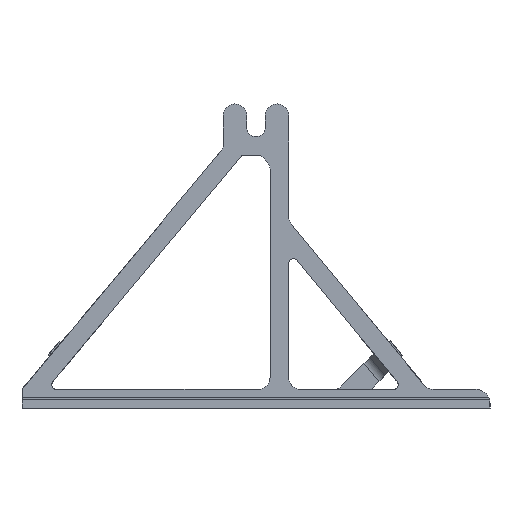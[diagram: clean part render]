
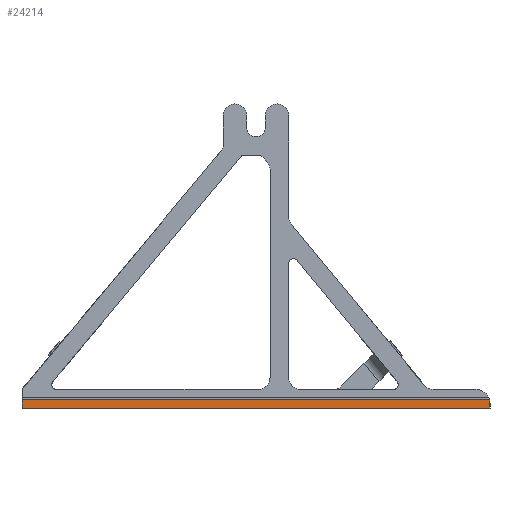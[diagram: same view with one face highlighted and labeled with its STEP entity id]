
A CAD part, left-side view. The second image highlights one B-rep face of the part: STEP entity #24214.
In plain terms, the highlighted planar face has unit normal (-1, 0, 0).
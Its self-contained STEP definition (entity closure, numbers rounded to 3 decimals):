
#432 = DIRECTION ( 'NONE',  ( 0., 0., 1. ) ) ;
#679 = EDGE_CURVE ( 'NONE', #28981, #39966, #37668, .T. ) ;
#953 = CARTESIAN_POINT ( 'NONE',  ( -61.49, 120.01, 0.01 ) ) ;
#1945 = DIRECTION ( 'NONE',  ( -1., 0., 0. ) ) ;
#2011 = CARTESIAN_POINT ( 'NONE',  ( -61.49, 0.01, -99.99 ) ) ;
#3939 = EDGE_CURVE ( 'NONE', #39966, #11375, #21463, .T. ) ;
#4241 = LINE ( 'NONE', #4510, #29568 ) ;
#4442 = CARTESIAN_POINT ( 'NONE',  ( -61.49, 0.01, 100.01 ) ) ;
#4510 = CARTESIAN_POINT ( 'NONE',  ( -61.49, 3.51, 0.01 ) ) ;
#5207 = AXIS2_PLACEMENT_3D ( 'NONE', #45569, #29903, #432 ) ;
#6913 = DIRECTION ( 'NONE',  ( 0., 0., -1. ) ) ;
#11375 = VERTEX_POINT ( 'NONE', #2011 ) ;
#11872 = DIRECTION ( 'NONE',  ( 0., 0., -1. ) ) ;
#12130 = EDGE_CURVE ( 'NONE', #28981, #25278, #23791, .T. ) ;
#14489 = FACE_OUTER_BOUND ( 'NONE', #43241, .T. ) ;
#15198 = DIRECTION ( 'NONE',  ( 0., 1., 0. ) ) ;
#15574 = VECTOR ( 'NONE', #6913, 1000. ) ;
#18747 = ORIENTED_EDGE ( 'NONE', *, *, #27056, .T. ) ;
#21463 = LINE ( 'NONE', #40742, #15574 ) ;
#21660 = VECTOR ( 'NONE', #15198, 1000. ) ;
#23717 = EDGE_CURVE ( 'NONE', #11375, #28488, #31732, .T. ) ;
#23791 = CIRCLE ( 'NONE', #5207, 6. ) ;
#23864 = AXIS2_PLACEMENT_3D ( 'NONE', #953, #1945, #27280 ) ;
#24214 = ADVANCED_FACE ( 'NONE', ( #14489 ), #24475, .T. ) ;
#24475 = PLANE ( 'NONE',  #23864 ) ;
#25278 = VERTEX_POINT ( 'NONE', #29791 ) ;
#26402 = VECTOR ( 'NONE', #44522, 1000. ) ;
#27056 = EDGE_CURVE ( 'NONE', #25278, #28488, #4241, .T. ) ;
#27280 = DIRECTION ( 'NONE',  ( 0., 0., -1. ) ) ;
#28488 = VERTEX_POINT ( 'NONE', #37869 ) ;
#28981 = VERTEX_POINT ( 'NONE', #44388 ) ;
#29568 = VECTOR ( 'NONE', #11872, 1000. ) ;
#29791 = CARTESIAN_POINT ( 'NONE',  ( -61.49, 3.51, 99.819 ) ) ;
#29903 = DIRECTION ( 'NONE',  ( -1., 0., 0. ) ) ;
#31732 = LINE ( 'NONE', #48524, #21660 ) ;
#32098 = ORIENTED_EDGE ( 'NONE', *, *, #679, .F. ) ;
#33753 = ORIENTED_EDGE ( 'NONE', *, *, #12130, .T. ) ;
#36963 = CARTESIAN_POINT ( 'NONE',  ( -61.49, 0.01, 100.01 ) ) ;
#37668 = LINE ( 'NONE', #36963, #26402 ) ;
#37869 = CARTESIAN_POINT ( 'NONE',  ( -61.49, 3.51, -99.99 ) ) ;
#39514 = ORIENTED_EDGE ( 'NONE', *, *, #3939, .F. ) ;
#39966 = VERTEX_POINT ( 'NONE', #4442 ) ;
#40742 = CARTESIAN_POINT ( 'NONE',  ( -61.49, 0.01, 80.01 ) ) ;
#43241 = EDGE_LOOP ( 'NONE', ( #33753, #18747, #47497, #39514, #32098 ) ) ;
#44388 = CARTESIAN_POINT ( 'NONE',  ( -61.49, 2.01, 100.01 ) ) ;
#44522 = DIRECTION ( 'NONE',  ( 0., -1., 0. ) ) ;
#45569 = CARTESIAN_POINT ( 'NONE',  ( -61.49, 2.01, 94.01 ) ) ;
#47497 = ORIENTED_EDGE ( 'NONE', *, *, #23717, .F. ) ;
#48524 = CARTESIAN_POINT ( 'NONE',  ( -61.49, 8.01, -99.99 ) ) ;
